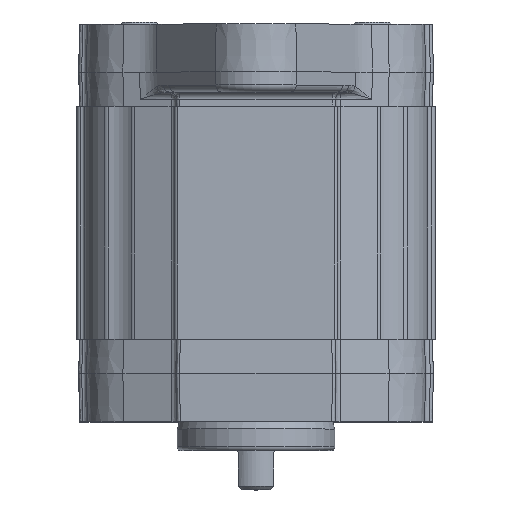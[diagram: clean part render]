
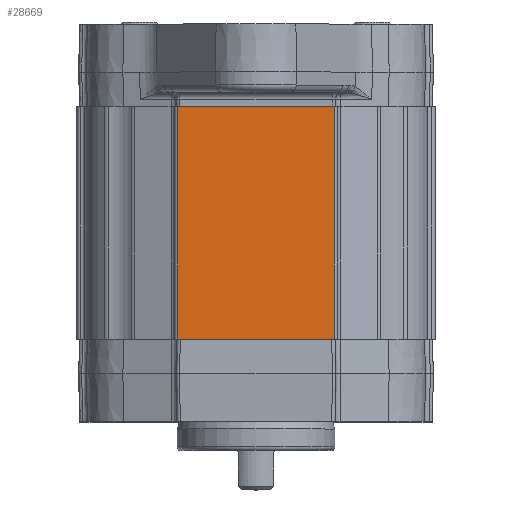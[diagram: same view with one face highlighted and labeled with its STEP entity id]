
A CAD part, top view. The second image highlights one B-rep face of the part: STEP entity #28669.
In plain terms, the highlighted planar face has unit normal (0, 0, 1) as drawn and (0, 0, -1) by its records, which use the part's own axes.
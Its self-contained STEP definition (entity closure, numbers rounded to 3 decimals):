
#5449=ORIENTED_EDGE('',*,*,#10289,.F.);
#5450=ORIENTED_EDGE('',*,*,#10288,.F.);
#5451=ORIENTED_EDGE('',*,*,#10290,.T.);
#5452=ORIENTED_EDGE('',*,*,#10291,.T.);
#10288=EDGE_CURVE('',#12850,#12849,#14390,.T.);
#10289=EDGE_CURVE('',#12849,#12851,#14391,.T.);
#10290=EDGE_CURVE('',#12850,#12852,#14392,.T.);
#10291=EDGE_CURVE('',#12852,#12851,#14393,.T.);
#12849=VERTEX_POINT('',#48568);
#12850=VERTEX_POINT('',#48570);
#12851=VERTEX_POINT('',#48574);
#12852=VERTEX_POINT('',#48576);
#14390=LINE('',#48571,#15357);
#14391=LINE('',#48573,#15358);
#14392=LINE('',#48575,#15359);
#14393=LINE('',#48577,#15360);
#15357=VECTOR('',#34256,1000.);
#15358=VECTOR('',#34259,1000.);
#15359=VECTOR('',#34260,1000.);
#15360=VECTOR('',#34261,1000.);
#16536=EDGE_LOOP('',(#5449,#5450,#5451,#5452));
#18050=FACE_BOUND('',#16536,.T.);
#19088=PLANE('',#30449);
#28669=ADVANCED_FACE('',(#18050),#19088,.T.);
#30449=AXIS2_PLACEMENT_3D('',#48572,#34257,#34258);
#34256=DIRECTION('',(0.,-1.,0.));
#34257=DIRECTION('',(0.,0.,-1.));
#34258=DIRECTION('',(-1.,0.,0.));
#34259=DIRECTION('',(1.,0.,0.));
#34260=DIRECTION('',(1.,0.,0.));
#34261=DIRECTION('',(0.,-1.,0.));
#48568=CARTESIAN_POINT('',(-10.923,0.,-27.));
#48570=CARTESIAN_POINT('',(-10.923,32.5,-27.));
#48571=CARTESIAN_POINT('',(-10.923,32.5,-27.));
#48572=CARTESIAN_POINT('',(-10.923,32.5,-27.));
#48573=CARTESIAN_POINT('',(-10.923,0.,-27.));
#48574=CARTESIAN_POINT('',(10.923,0.,-27.));
#48575=CARTESIAN_POINT('',(-10.923,32.5,-27.));
#48576=CARTESIAN_POINT('',(10.923,32.5,-27.));
#48577=CARTESIAN_POINT('',(10.923,32.5,-27.));
